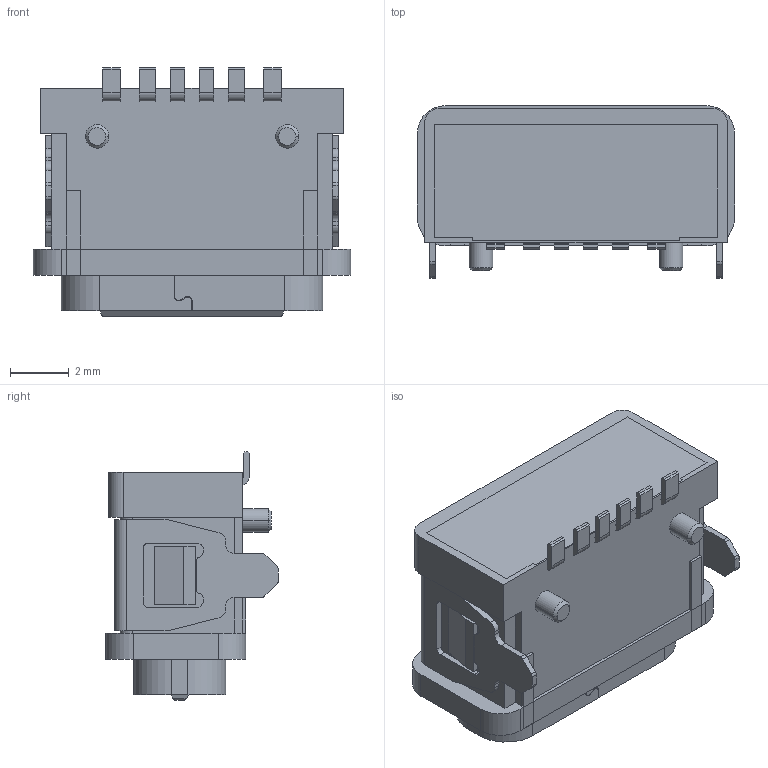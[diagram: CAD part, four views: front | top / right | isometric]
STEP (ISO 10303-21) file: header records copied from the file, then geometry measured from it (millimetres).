
FILE_DESCRIPTION((''),'2;1');
FILE_NAME('25252_ASM','2023-03-30T15:26:30',('Administrator'),(''),'CREO PARAMETRIC BY PTC INC, 2019080','CREO PARAMETRIC BY PTC INC, 2019080','');
FILE_SCHEMA(('CONFIG_CONTROL_DESIGN'));
Length unit declared in the file: millimetre
Products named in the file (9): 1020002_5_3_1_1_1_1; 1020002_5_2_1_1_1_1; 1020002_5_4_1_1_1_1; 1020002_5_6_1_1_1_1; 1020002_5_5_1_1_1_1; TK_1_1; LIANGJIAOCHAIBAN_1; 1020002_5_ASM_1_ASM_1_ASM_1_ASM_ASM; 25252_ASM
Assembly tree (8 placements, depth 3):
  25252_ASM
    1020002_5_ASM_1_ASM_1_ASM_1_ASM_ASM
      1020002_5_3_1_1_1_1
      1020002_5_2_1_1_1_1
      1020002_5_4_1_1_1_1
      1020002_5_6_1_1_1_1
      1020002_5_5_1_1_1_1
      TK_1_1
      LIANGJIAOCHAIBAN_1
Bounding box: 10.84 x 5.9 x 8.5 mm (x, y, z)
Volume: 162 mm3; surface area: 1023.2 mm2
Topology: 6 solids, 7 shells, 840 faces, 2330 edges, 1538 vertices
Faces by surface type: plane 660, cylinder 160, cone 20
Entity records: 26886 total; most frequent: CARTESIAN_POINT 4785, ORIENTED_EDGE 4648, DIRECTION 4394, EDGE_CURVE 2330, VECTOR 1970, LINE 1970, VERTEX_POINT 1538, AXIS2_PLACEMENT_3D 1212
